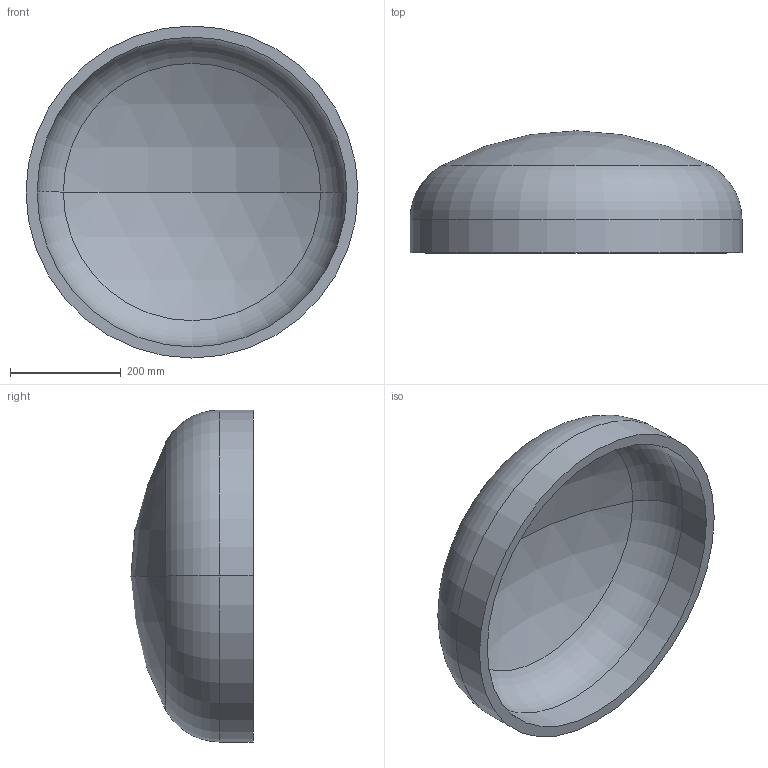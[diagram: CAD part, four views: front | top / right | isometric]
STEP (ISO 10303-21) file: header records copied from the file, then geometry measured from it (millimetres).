
FILE_DESCRIPTION (( 'STEP AP203' ), '1' );
FILE_NAME ('DIN 28013 Korbbogenform_-_Boden DIN 28013 - 600 x 60 - I - s=20.step', '2016-07-01T07:58:18', ( '' ), ( '' ), 'SwSTEP 2.0', 'SolidWorks 2013', '' );
FILE_SCHEMA (( 'CONFIG_CONTROL_DESIGN' ));
Length unit declared in the file: millimetre
Products named in the file (1): DIN 28013 Korbbogenform_-_Boden DIN 28013 - 600 x 60 - I - s=20
Bounding box: 600 x 220.59 x 600 mm (x, y, z)
Volume: 9679069.2 mm3; surface area: 1005186.9 mm2
Topology: 1 solids, 1 shells, 13 faces, 24 edges, 14 vertices
Faces by surface type: torus 4, cylinder 4, sphere 4, plane 1
Entity records: 407 total; most frequent: DIRECTION 72, CARTESIAN_POINT 52, ORIENTED_EDGE 48, AXIS2_PLACEMENT_3D 34, EDGE_CURVE 24, CIRCLE 20, EDGE_LOOP 14, VERTEX_POINT 14
